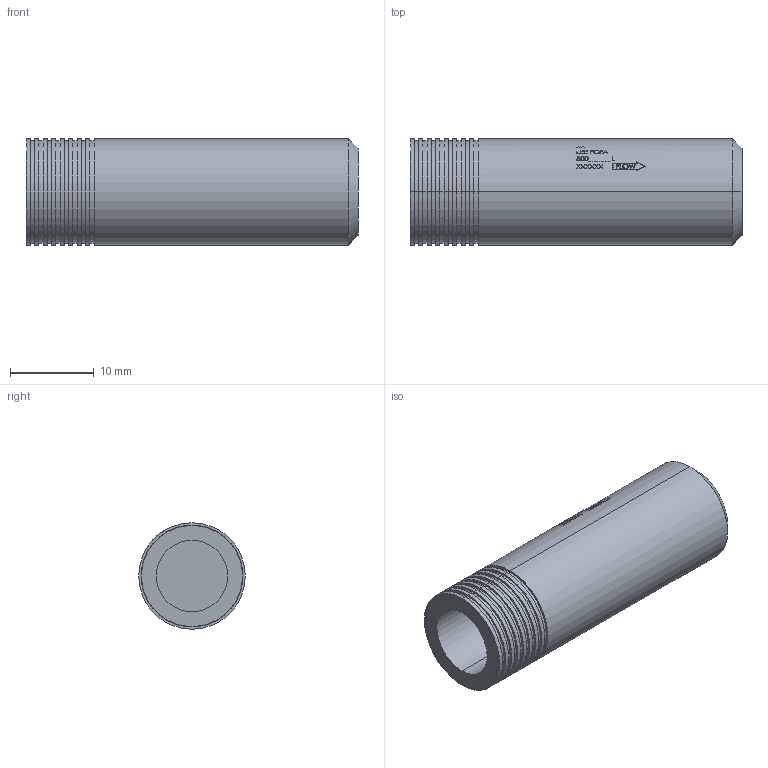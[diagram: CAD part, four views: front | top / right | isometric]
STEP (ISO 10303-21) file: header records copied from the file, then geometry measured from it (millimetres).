
FILE_DESCRIPTION (( 'STEP AP214' ), '1' );
FILE_NAME ('3DFCFA500----L.STEP', '2021-03-29T12:10:03', ( '' ), ( '' ), 'SwSTEP 2.0', 'SolidWorks 2019', '' );
FILE_SCHEMA (( 'AUTOMOTIVE_DESIGN' ));
Length unit declared in the file: inch
Products named in the file (1): 3DFCFA500----L
Bounding box: 39.62 x 12.7 x 12.7 mm (x, y, z)
Volume: 4482.9 mm3; surface area: 2197.3 mm2
Topology: 1 solids, 1 shells, 368 faces, 941 edges, 626 vertices
Faces by surface type: plane 164, bspline 129, cylinder 71, cone 4
Entity records: 17817 total; most frequent: CARTESIAN_POINT 5978, ORIENTED_EDGE 1882, DIRECTION 1170, EDGE_CURVE 941, VERTEX_POINT 626, B_SPLINE_CURVE_WITH_KNOTS 433, AXIS2_PLACEMENT_3D 422, EDGE_LOOP 419
